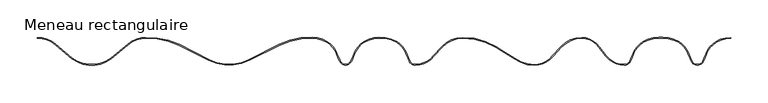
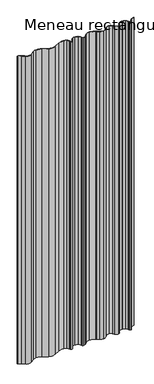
"""IFC4 building model written with IfcOpenShell, lengths in millimetres: member geometry, Meneau rectangulaire : Ritmica 930."""

from ifc_helpers import new_model, si_unit, frame, origin, place, context, project, spatial, polyline, circle_curve, source, transform, mapped, element, save
from ifc_brep_helpers import plane_surface, cylinder_surface, revolved_surface, advanced_brep


def meneau_rectangulaire_eab91256(model_context):
    return source(origin(), model_context, "Body", "AdvancedBrep", [
        advanced_brep(
        [(402.2205359, 30.4385777, 0.0), (421.7589181, 35.9478391, 0.0), (421.7589181, 36.9478391, 0.0), (401.6984475, 31.2914691, 0.0), (388.8453903, 16.0569909, 0.0), (385.9787761, 8.8924216, 0.0), (384.3336727, 5.4571133, 0.0), (370.1555943, 5.4519528, 0.0), (368.5079906, 8.8860626, 0.0), (365.6361617, 16.0485432, 0.0), (352.7665281, 31.277015, 0.0), (331.1566595, 37.2056593, 0.0), (325.8181686, 37.2056593, 0.0), (304.2106964, 31.2585224, 0.0), (291.354122, 16.0229852, 0.0), (288.4869159, 8.8569365, 0.0), (286.8418125, 5.4216282, 0.0), (279.7543979, 0.9556818, 0.0), (255.5611507, 12.6054811, 0.0), (246.0362251, 24.5565471, 0.0), (222.7501335, 36.9429608, 0.0), (194.5527852, 24.6182498, 0.0), (183.4233669, 12.6003168, 0.0), (159.2172985, 0.9038291, 0.0), (133.0380886, 9.1495706, 0.0), (115.6744339, 20.3001087, 0.0), (108.2363693, 24.6976264, 0.0), (63.5265456, 37.0260575, 0.0), (35.3401939, 24.7013521, 0.0), (24.2106858, 12.683322, 0.0), (0.0030296, 0.9869307, 0.0), (-7.0877621, 5.4477166, 0.0), (-8.7353659, 8.8818263, 0.0), (-11.6071948, 16.044307, 0.0), (-24.4768283, 31.2727788, 0.0), (-48.7885595, 37.1140573, 0.0), (-68.816655, 31.4577126, 0.0), (-81.6697123, 16.2232345, 0.0), (-84.5363264, 9.0586651, 0.0), (-86.1814299, 5.6233569, 0.0), (-100.3595082, 5.6181963, 0.0), (-102.007112, 9.0523061, 0.0), (-104.8789409, 16.2147868, 0.0), (-117.7430848, 31.4399044, 0.0), (-137.7899019, 37.0816721, 0.0), (-181.9940118, 27.7973456, 0.0), (-222.5328517, 7.3967696, 0.0), (-275.5383238, 7.3774767, 0.0), (-316.0920037, 27.7485366, 0.0), (-360.3028616, 37.0006818, 0.0), (-384.6892438, 28.1569021, 0.0), (-407.0931164, 9.4780798, 0.0), (-458.7111182, 9.4592919, 0.0), (-481.1285823, 28.1218001, 0.0), (-505.5391627, 36.9478229, 0.0), (-505.5391627, 35.9478228, 0.0), (-481.768388, 27.3532635, 0.0), (-459.3305586, 8.6738011, 0.0), (-406.4731044, 8.6930401, 0.0), (-384.0488787, 27.3888314, 0.0), (-360.2847308, 36.0006925, 0.0), (-316.5331062, 26.8510378, 0.0), (-275.9871976, 6.4838815, 0.0), (-222.0833276, 6.5035014, 0.0), (-181.5522561, 26.9001681, 0.0), (-137.8073037, 36.0816698, 0.0), (-118.2645522, 30.5866331, 0.0), (-105.8071999, 15.8428524, 0.0), (-102.9229956, 8.6495068, 0.0), (-101.26111, 5.1856293, 0.0), (-85.2795134, 5.1914463, 0.0), (-83.6201498, 8.6565327, 0.0), (-80.7411827, 15.8519759, 0.0), (-68.2945667, 30.6048212, 0.0), (-48.7558205, 36.1140827, 0.0), (-24.992806, 30.4161534, 0.0), (-12.5354538, 15.6723726, 0.0), (-9.6512495, 8.4790271, 0.0), (-7.9893639, 5.0151496, 0.0), (5.58e-05, -0.0130699, 0.0), (24.9701296, 12.0316475, 0.0), (36.0739028, 24.0218881, 0.0), (63.5379063, 36.0260631, 0.0), (107.7160778, 23.8435356, 0.0), (115.1496156, 19.4486943, 0.0), (132.4826193, 8.3178394, 0.0), (159.2158569, -0.0961715, 0.0), (184.1827208, 11.9485452, 0.0), (195.286494, 23.9387858, 0.0), (222.7504975, 35.9429609, 0.0), (245.2289804, 23.9649435, 0.0), (254.7791365, 11.9822206, 0.0), (279.7547619, -0.0443181, 0.0), (287.7437289, 4.9897177, 0.0), (289.4030925, 8.4548041, 0.0), (292.2820596, 15.6502473, 0.0), (304.7286757, 30.4030926, 0.0), (325.8181686, 36.2037161, 0.0), (331.1568404, 36.2056593, 0.0), (352.2505504, 30.4203896, 0.0), (364.7079026, 15.6766089, 0.0), (367.5921069, 8.4832633, 0.0), (369.2539925, 5.0193858, 0.0), (385.2355891, 5.0252028, 0.0), (386.8949527, 8.4902892, 0.0), (389.7739198, 15.6857324, 0.0), (402.2205359, 30.4385777, -2588.190451), (389.7739198, 15.6857324, -2588.190451), (386.8949527, 8.4902892, -2588.190451), (385.2355891, 5.0252028, -2588.190451), (369.2539925, 5.0193858, -2588.190451), (367.5921069, 8.4832633, -2588.190451), (364.7079026, 15.6766089, -2588.190451), (352.2505504, 30.4203896, -2588.190451), (331.1568404, 36.2056593, -2588.190451), (325.8181686, 36.2056593, -2588.190451), (304.7286757, 30.4030926, -2588.190451), (292.2820596, 15.6502473, -2588.190451), (289.4030925, 8.4548041, -2588.190451), (287.7437289, 4.9897177, -2588.190451), (279.7547619, -0.0443181, -2588.190451), (254.7791365, 11.9822206, -2588.190451), (245.2289804, 23.9649435, -2588.190451), (222.7504975, 35.9429609, -2588.190451), (195.286494, 23.9387858, -2588.190451), (184.1827208, 11.9485452, -2588.190451), (159.2158569, -0.0961715, -2588.190451), (132.4826193, 8.3178394, -2588.190451), (115.1496156, 19.4486943, -2588.190451), (107.7160778, 23.8435356, -2588.190451), (63.5379063, 36.0260631, -2588.190451), (36.0739028, 24.0218881, -2588.190451), (24.9701296, 12.0316475, -2588.190451), (0.0032656, -0.0130693, -2588.190451), (-7.9893639, 5.0151496, -2588.190451), (-9.6512495, 8.4790271, -2588.190451), (-12.5354538, 15.6723726, -2588.190451), (-24.992806, 30.4161534, -2588.190451), (-48.7558205, 36.1140827, -2588.190451), (-68.2945667, 30.6048212, -2588.190451), (-80.7411827, 15.8519759, -2588.190451), (-83.6201498, 8.6565327, -2588.190451), (-85.2795134, 5.1914463, -2588.190451), (-101.26111, 5.1856293, -2588.190451), (-102.9229956, 8.6495068, -2588.190451), (-105.8071999, 15.8428524, -2588.190451), (-118.2645522, 30.5866331, -2588.190451), (-137.8073037, 36.0816698, -2588.190451), (-181.5522561, 26.9001681, -2588.190451), (-222.0833276, 6.5035014, -2588.190451), (-275.9871976, 6.4838815, -2588.190451), (-316.5331062, 26.8510378, -2588.190451), (-360.2847308, 36.0006925, -2588.190451), (-384.0488787, 27.3888314, -2588.190451), (-406.4731044, 8.6930401, -2588.190451), (-459.3305586, 8.6738011, -2588.190451), (-481.768388, 27.3532635, -2588.190451), (-505.5391627, 35.9478228, -2588.190451), (-505.5391627, 36.9478229, -2588.190451), (-481.1285823, 28.1218001, -2588.190451), (-458.7111182, 9.4592919, -2588.190451), (-407.0931164, 9.4780798, -2588.190451), (-384.6892438, 28.1569021, -2588.190451), (-360.3028616, 37.0006818, -2588.190451), (-316.0920037, 27.7485366, -2588.190451), (-275.5383238, 7.3774767, -2588.190451), (-222.5328517, 7.3967696, -2588.190451), (-181.9940118, 27.7973456, -2588.190451), (-137.7899019, 37.0816721, -2588.190451), (-117.7430848, 31.4399044, -2588.190451), (-104.8789409, 16.2147868, -2588.190451), (-102.007112, 9.0523061, -2588.190451), (-100.3595082, 5.6181963, -2588.190451), (-86.1814299, 5.6233569, -2588.190451), (-84.5363264, 9.0586651, -2588.190451), (-81.6697123, 16.2232345, -2588.190451), (-68.816655, 31.4577126, -2588.190451), (-48.7885595, 37.1140573, -2588.190451), (-24.4768283, 31.2727788, -2588.190451), (-11.6071948, 16.044307, -2588.190451), (-8.7353659, 8.8818263, -2588.190451), (-7.0877621, 5.4477166, -2588.190451), (5.4e-05, 0.9869301, -2588.190451), (24.2106858, 12.683322, -2588.190451), (35.3401939, 24.7013521, -2588.190451), (63.5265456, 37.0260575, -2588.190451), (108.2363693, 24.6976264, -2588.190451), (115.6744339, 20.3001087, -2588.190451), (133.0380886, 9.1495706, -2588.190451), (159.2172985, 0.9038291, -2588.190451), (183.4233669, 12.6003168, -2588.190451), (194.5527852, 24.6182498, -2588.190451), (222.7501335, 36.9429608, -2588.190451), (246.0362251, 24.5565471, -2588.190451), (255.5611507, 12.6054811, -2588.190451), (279.7543979, 0.9556818, -2588.190451), (286.8418125, 5.4216282, -2588.190451), (288.4869159, 8.8569365, -2588.190451), (291.354122, 16.0229852, -2588.190451), (304.2106964, 31.2585224, -2588.190451), (325.8178046, 37.2037161, -2588.190451), (331.1566595, 37.2056593, -2588.190451), (352.7665281, 31.277015, -2588.190451), (365.6361617, 16.0485432, -2588.190451), (368.5079906, 8.8860626, -2588.190451), (370.1555943, 5.4519528, -2588.190451), (384.3336727, 5.4571133, -2588.190451), (385.9787761, 8.8924216, -2588.190451), (388.8453903, 16.0569909, -2588.190451), (401.6984475, 31.2914691, -2588.190451), (421.7589181, 36.9478391, -2588.190451), (421.7589181, 35.9478391, -2588.190451)],
        [
            (0, 1, circle_curve(frame((421.7729132, -1.5024827, 0.0), z_axis=(0.0, 0.0, -1.0), x_axis=(-0.00036397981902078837, 0.9999999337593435, 0.0)), 37.4503244)),
            (1, 2),
            (2, 3, circle_curve(frame((421.7729132, -1.5024827, 0.0), z_axis=(0.0, 0.0, 1.0), x_axis=(-0.00036397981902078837, 0.9999999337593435, 0.0)), 38.4503244)),
            (3, 4, circle_curve(frame((418.2051463, 4.3258754, 0.0), z_axis=(0.0, 0.0, 1.0), x_axis=(-0.522088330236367, 0.8528914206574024, 0.0)), 31.6166783)),
            (4, 5),
            (5, 6),
            (6, 7, circle_curve(frame((377.2433967, 8.8525109, 0.0), z_axis=(0.0, 0.0, -1.0), x_axis=(0.9019164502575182, -0.4319105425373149, 0.0)), 7.8613445)),
            (7, 8),
            (8, 9),
            (9, 10, circle_curve(frame((336.2849532, 4.2960581, 0.0), z_axis=(0.0, 0.0, 1.0), x_axis=(0.928348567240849, 0.3717108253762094, 0.0)), 31.6166783)),
            (10, 11, circle_curve(frame((331.1718702, -5.0871328, 0.0), z_axis=(0.0, 0.0, 1.0), x_axis=(0.5104687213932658, 0.8598963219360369, 0.0)), 42.2927949)),
            (11, 12),
            (12, 13, circle_curve(frame((325.8331983, -5.089076, 0.0), z_axis=(0.0, 0.0, 1.0), x_axis=(-0.0003639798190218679, 0.9999999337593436, 0.0)), 42.2927949)),
            (13, 14, circle_curve(frame((320.9540861, 4.0872333, 0.0), z_axis=(0.0, 0.0, 1.0), x_axis=(-0.5248253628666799, 0.8512099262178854, 0.0)), 31.9158276)),
            (14, 15),
            (15, 16),
            (16, 17, circle_curve(frame((279.7515365, 8.8170258, 0.0), z_axis=(0.0, 0.0, -1.0), x_axis=(0.9019164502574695, -0.4319105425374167, 0.0)), 7.8613445)),
            (17, 18, circle_curve(frame((279.7431426, 31.8783789, 0.0), z_axis=(0.0, 0.0, -1.0), x_axis=(0.00036397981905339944, -0.9999999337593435, 0.0)), 30.9226992)),
            (18, 19),
            (19, 20, circle_curve(frame((222.7603477, 8.8803744, 0.0), z_axis=(0.0, 0.0, 1.0), x_axis=(0.8302470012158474, 0.5573956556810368, 0.0)), 28.0625882)),
            (20, 21, circle_curve(frame((222.7641287, -1.5073611, 0.0), z_axis=(0.0, 0.0, 1.0), x_axis=(-0.0003639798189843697, 0.9999999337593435, 0.0)), 38.4503244)),
            (21, 22),
            (22, 23, circle_curve(frame((159.2042377, 31.8265255, 0.0), z_axis=(0.0, 0.0, -1.0), x_axis=(0.7824677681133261, -0.622691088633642, 0.0)), 30.9226992)),
            (23, 24, circle_curve(frame((159.3694534, 47.0676509, 0.0), z_axis=(0.0, 0.0, -1.0), x_axis=(-0.003256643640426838, -0.9999946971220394, 0.0)), 46.1640725)),
            (24, 25),
            (25, 26),
            (26, 27, circle_curve(frame((65.3150434, -43.7235405, 0.0), z_axis=(0.0, 0.0, 1.0), x_axis=(0.5315450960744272, 0.8470299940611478, 0.0)), 80.769402)),
            (27, 28, circle_curve(frame((63.5515374, -1.4242588, 0.0), z_axis=(0.0, 0.0, 1.0), x_axis=(-0.0003639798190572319, 0.9999999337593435, 0.0)), 38.4503244)),
            (28, 29),
            (29, 30, circle_curve(frame((0.0, 31.8923121, 0.0), z_axis=(0.0, 0.0, -1.0), x_axis=(0.7826306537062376, -0.6224863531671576, 0.0)), 30.9053815)),
            (30, 31, circle_curve(frame((4.03e-05, 8.8482747, 0.0), z_axis=(0.0, 0.0, -1.0), x_axis=(0.0003639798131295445, -0.9999999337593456, 0.0)), 7.8613445)),
            (31, 32),
            (32, 33),
            (33, 34, circle_curve(frame((-40.9584033, 4.2918219, 0.0), z_axis=(0.0, 0.0, 1.0), x_axis=(0.9283485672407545, 0.3717108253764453, 0.0)), 31.6166783)),
            (34, 35, circle_curve(frame((-46.0714863, -5.0913691, 0.0), z_axis=(0.0, 0.0, 1.0), x_axis=(0.5104687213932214, 0.8598963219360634, 0.0)), 42.2927949)),
            (35, 36, circle_curve(frame((-48.7421893, -1.3362392, 0.0), z_axis=(0.0, 0.0, 1.0), x_axis=(-0.000363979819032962, 0.9999999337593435, 0.0)), 38.4503244)),
            (36, 37, circle_curve(frame((-52.3099562, 4.4921189, 0.0), z_axis=(0.0, 0.0, 1.0), x_axis=(-0.522088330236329, 0.8528914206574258, 0.0)), 31.6166783)),
            (37, 38),
            (38, 39),
            (39, 40, circle_curve(frame((-93.2717058, 9.0187544, 0.0), z_axis=(0.0, 0.0, -1.0), x_axis=(0.9019164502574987, -0.43191054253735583, 0.0)), 7.8613445)),
            (40, 41),
            (41, 42),
            (42, 43, circle_curve(frame((-134.2301494, 4.4623016, 0.0), z_axis=(0.0, 0.0, 1.0), x_axis=(0.9283485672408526, 0.3717108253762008, 0.0)), 31.6166783)),
            (43, 44, circle_curve(frame((-137.7936725, -1.3686521, 0.0), z_axis=(0.0, 0.0, 1.0), x_axis=(0.5214673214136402, 0.8532712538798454, 0.0)), 38.4503244)),
            (44, 45, circle_curve(frame((-141.0742515, -57.1544877, 0.0), z_axis=(0.0, 0.0, 1.0), x_axis=(0.035018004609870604, 0.9993866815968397, 0.0)), 94.293376)),
            (45, 46),
            (46, 47, circle_curve(frame((-249.054774, 60.0995934, 0.0), z_axis=(0.0, 0.0, -1.0), x_axis=(0.4495241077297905, -0.8932681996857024, 0.0)), 59.0)),
            (47, 48),
            (48, 49, circle_curve(frame((-356.9499117, -57.2330621, 0.0), z_axis=(0.0, 0.0, 1.0), x_axis=(0.43322266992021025, 0.9012869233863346, 0.0)), 94.293376)),
            (49, 50, circle_curve(frame((-360.2712158, -1.1307254, 0.0), z_axis=(0.0, 0.0, 1.0), x_axis=(-0.00036397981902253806, 0.9999999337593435, 0.0)), 38.1314203)),
            (50, 51),
            (51, 52, circle_curve(frame((-432.9146997, 44.0375933, 0.0), z_axis=(0.0, 0.0, -1.0), x_axis=(0.5990307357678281, -0.800726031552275, 0.0)), 43.1406321)),
            (52, 53),
            (53, 54, circle_curve(frame((-505.5252836, -1.1835949, 0.0), z_axis=(0.0, 0.0, 1.0), x_axis=(0.639805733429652, 0.7685366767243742, 0.0)), 38.1314203)),
            (54, 55),
            (55, 56, circle_curve(frame((-505.5252836, -1.1835949, 0.0), z_axis=(0.0, 0.0, -1.0), x_axis=(0.639805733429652, 0.7685366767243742, 0.0)), 37.1314203)),
            (56, 57),
            (57, 58, circle_curve(frame((-432.9146997, 44.0375933, 0.0), z_axis=(0.0, 0.0, 1.0), x_axis=(0.5990307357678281, -0.800726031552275, 0.0)), 44.1406321)),
            (58, 59),
            (59, 60, circle_curve(frame((-360.2712158, -1.1307254, 0.0), z_axis=(0.0, 0.0, -1.0), x_axis=(-0.00036397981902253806, 0.9999999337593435, 0.0)), 37.1314203)),
            (60, 61, circle_curve(frame((-356.9499117, -57.2330621, 0.0), z_axis=(0.0, 0.0, -1.0), x_axis=(0.43322266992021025, 0.9012869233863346, 0.0)), 93.293376)),
            (61, 62),
            (62, 63, circle_curve(frame((-249.054774, 60.0995934, 0.0), z_axis=(0.0, 0.0, 1.0), x_axis=(0.4495241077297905, -0.8932681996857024, 0.0)), 60.0)),
            (63, 64),
            (64, 65, circle_curve(frame((-141.0742515, -57.1544877, 0.0), z_axis=(0.0, 0.0, -1.0), x_axis=(0.035018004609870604, 0.9993866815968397, 0.0)), 93.293376)),
            (65, 66, circle_curve(frame((-137.7936725, -1.3686521, 0.0), z_axis=(0.0, 0.0, -1.0), x_axis=(0.5214673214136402, 0.8532712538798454, 0.0)), 37.4503244)),
            (66, 67, circle_curve(frame((-134.2301494, 4.4623016, 0.0), z_axis=(0.0, 0.0, -1.0), x_axis=(0.9283485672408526, 0.3717108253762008, 0.0)), 30.6166783)),
            (67, 68),
            (68, 69),
            (69, 70, circle_curve(frame((-93.2717058, 9.0187544, 0.0), z_axis=(0.0, 0.0, 1.0), x_axis=(0.9019164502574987, -0.43191054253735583, 0.0)), 8.8613445)),
            (70, 71),
            (71, 72),
            (72, 73, circle_curve(frame((-52.3099562, 4.4921189, 0.0), z_axis=(0.0, 0.0, -1.0), x_axis=(-0.522088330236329, 0.8528914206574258, 0.0)), 30.6166783)),
            (73, 74, circle_curve(frame((-48.7421893, -1.3362392, 0.0), z_axis=(0.0, 0.0, -1.0), x_axis=(-0.000363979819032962, 0.9999999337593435, 0.0)), 37.4503244)),
            (74, 75, circle_curve(frame((-46.0714863, -5.0913691, 0.0), z_axis=(0.0, 0.0, -1.0), x_axis=(0.5104687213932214, 0.8598963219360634, 0.0)), 41.2927949)),
            (75, 76, circle_curve(frame((-40.9584033, 4.2918219, 0.0), z_axis=(0.0, 0.0, -1.0), x_axis=(0.9283485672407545, 0.3717108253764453, 0.0)), 30.6166783)),
            (76, 77),
            (77, 78),
            (78, 79, circle_curve(frame((4.03e-05, 8.8482747, 0.0), z_axis=(0.0, 0.0, 1.0), x_axis=(0.0003639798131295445, -0.9999999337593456, 0.0)), 8.8613445)),
            (79, 80, circle_curve(frame((0.0, 31.8923121, 0.0), z_axis=(0.0, 0.0, 1.0), x_axis=(0.7826306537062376, -0.6224863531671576, 0.0)), 31.9053815)),
            (80, 81),
            (81, 82, circle_curve(frame((63.5515374, -1.4242588, 0.0), z_axis=(0.0, 0.0, -1.0), x_axis=(-0.0003639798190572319, 0.9999999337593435, 0.0)), 37.4503244)),
            (82, 83, circle_curve(frame((65.3150434, -43.7235405, 0.0), z_axis=(0.0, 0.0, -1.0), x_axis=(0.5315450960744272, 0.8470299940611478, 0.0)), 79.769402)),
            (83, 84),
            (84, 85),
            (85, 86, circle_curve(frame((159.3694534, 47.0676509, 0.0), z_axis=(0.0, 0.0, 1.0), x_axis=(-0.003256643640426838, -0.9999946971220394, 0.0)), 47.1640725)),
            (86, 87, circle_curve(frame((159.2042377, 31.8265255, 0.0), z_axis=(0.0, 0.0, 1.0), x_axis=(0.7824677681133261, -0.622691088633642, 0.0)), 31.9226992)),
            (87, 88),
            (88, 89, circle_curve(frame((222.7641287, -1.5073611, 0.0), z_axis=(0.0, 0.0, -1.0), x_axis=(-0.0003639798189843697, 0.9999999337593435, 0.0)), 37.4503244)),
            (89, 90, circle_curve(frame((222.7603477, 8.8803744, 0.0), z_axis=(0.0, 0.0, -1.0), x_axis=(0.8302470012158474, 0.5573956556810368, 0.0)), 27.0625882)),
            (90, 91),
            (91, 92, circle_curve(frame((279.7431426, 31.8783789, 0.0), z_axis=(0.0, 0.0, 1.0), x_axis=(0.00036397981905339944, -0.9999999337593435, 0.0)), 31.9226992)),
            (92, 93, circle_curve(frame((279.7515365, 8.8170258, 0.0), z_axis=(0.0, 0.0, 1.0), x_axis=(0.9019164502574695, -0.4319105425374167, 0.0)), 8.8613445)),
            (93, 94),
            (94, 95),
            (95, 96, circle_curve(frame((320.9540861, 4.0872333, 0.0), z_axis=(0.0, 0.0, -1.0), x_axis=(-0.5248253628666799, 0.8512099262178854, 0.0)), 30.9158276)),
            (96, 97, circle_curve(frame((325.8331983, -5.089076, 0.0), z_axis=(0.0, 0.0, -1.0), x_axis=(-0.0003639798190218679, 0.9999999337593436, 0.0)), 41.2927949)),
            (97, 98),
            (98, 99, circle_curve(frame((331.1718702, -5.0871328, 0.0), z_axis=(0.0, 0.0, -1.0), x_axis=(0.5104687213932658, 0.8598963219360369, 0.0)), 41.2927949)),
            (99, 100, circle_curve(frame((336.2849532, 4.2960581, 0.0), z_axis=(0.0, 0.0, -1.0), x_axis=(0.928348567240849, 0.3717108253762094, 0.0)), 30.6166783)),
            (100, 101),
            (101, 102),
            (102, 103, circle_curve(frame((377.2433967, 8.8525109, 0.0), z_axis=(0.0, 0.0, 1.0), x_axis=(0.9019164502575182, -0.4319105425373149, 0.0)), 8.8613445)),
            (103, 104),
            (104, 105),
            (105, 0, circle_curve(frame((418.2051463, 4.3258754, 0.0), z_axis=(0.0, 0.0, -1.0), x_axis=(-0.522088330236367, 0.8528914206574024, 0.0)), 30.6166783)),
            (106, 107, circle_curve(frame((418.2051463, 4.3258754, -2588.190451), z_axis=(0.0, 0.0, 1.0), x_axis=(-0.522088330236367, 0.8528914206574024, 0.0)), 30.6166783)),
            (107, 108),
            (108, 109),
            (109, 110, circle_curve(frame((377.2433967, 8.8525109, -2588.190451), z_axis=(0.0, 0.0, -1.0), x_axis=(0.9019164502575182, -0.4319105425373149, 0.0)), 8.8613445)),
            (110, 111),
            (111, 112),
            (112, 113, circle_curve(frame((336.2849532, 4.2960581, -2588.190451), z_axis=(0.0, 0.0, 1.0), x_axis=(0.928348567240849, 0.3717108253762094, 0.0)), 30.6166783)),
            (113, 114, circle_curve(frame((331.1718702, -5.0871328, -2588.190451), z_axis=(0.0, 0.0, 1.0), x_axis=(0.5104687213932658, 0.8598963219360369, 0.0)), 41.2927949)),
            (114, 115),
            (115, 116, circle_curve(frame((325.8331983, -5.089076, -2588.190451), z_axis=(0.0, 0.0, 1.0), x_axis=(-0.0003639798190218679, 0.9999999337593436, 0.0)), 41.2927949)),
            (116, 117, circle_curve(frame((320.9540861, 4.0872333, -2588.190451), z_axis=(0.0, 0.0, 1.0), x_axis=(-0.5248253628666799, 0.8512099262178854, 0.0)), 30.9158276)),
            (117, 118),
            (118, 119),
            (119, 120, circle_curve(frame((279.7515365, 8.8170258, -2588.190451), z_axis=(0.0, 0.0, -1.0), x_axis=(0.9019164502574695, -0.4319105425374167, 0.0)), 8.8613445)),
            (120, 121, circle_curve(frame((279.7431426, 31.8783789, -2588.190451), z_axis=(0.0, 0.0, -1.0), x_axis=(0.00036397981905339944, -0.9999999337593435, 0.0)), 31.9226992)),
            (121, 122),
            (122, 123, circle_curve(frame((222.7603477, 8.8803744, -2588.190451), z_axis=(0.0, 0.0, 1.0), x_axis=(0.8302470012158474, 0.5573956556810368, 0.0)), 27.0625882)),
            (123, 124, circle_curve(frame((222.7641287, -1.5073611, -2588.190451), z_axis=(0.0, 0.0, 1.0), x_axis=(-0.0003639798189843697, 0.9999999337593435, 0.0)), 37.4503244)),
            (124, 125),
            (125, 126, circle_curve(frame((159.2042377, 31.8265255, -2588.190451), z_axis=(0.0, 0.0, -1.0), x_axis=(0.7824677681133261, -0.622691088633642, 0.0)), 31.9226992)),
            (126, 127, circle_curve(frame((159.3694534, 47.0676509, -2588.190451), z_axis=(0.0, 0.0, -1.0), x_axis=(-0.003256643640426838, -0.9999946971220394, 0.0)), 47.1640725)),
            (127, 128),
            (128, 129),
            (129, 130, circle_curve(frame((65.3150434, -43.7235405, -2588.190451), z_axis=(0.0, 0.0, 1.0), x_axis=(0.5315450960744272, 0.8470299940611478, 0.0)), 79.769402)),
            (130, 131, circle_curve(frame((63.5515374, -1.4242588, -2588.190451), z_axis=(0.0, 0.0, 1.0), x_axis=(-0.0003639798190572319, 0.9999999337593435, 0.0)), 37.4503244)),
            (131, 132),
            (132, 133, circle_curve(frame((0.0, 31.8923121, -2588.190451), z_axis=(0.0, 0.0, -1.0), x_axis=(0.7826306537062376, -0.6224863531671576, 0.0)), 31.9053815)),
            (133, 134, circle_curve(frame((4.03e-05, 8.8482747, -2588.190451), z_axis=(0.0, 0.0, -1.0), x_axis=(0.0003639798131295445, -0.9999999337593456, 0.0)), 8.8613445)),
            (134, 135),
            (135, 136),
            (136, 137, circle_curve(frame((-40.9584033, 4.2918219, -2588.190451), z_axis=(0.0, 0.0, 1.0), x_axis=(0.9283485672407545, 0.3717108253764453, 0.0)), 30.6166783)),
            (137, 138, circle_curve(frame((-46.0714863, -5.0913691, -2588.190451), z_axis=(0.0, 0.0, 1.0), x_axis=(0.5104687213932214, 0.8598963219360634, 0.0)), 41.2927949)),
            (138, 139, circle_curve(frame((-48.7421893, -1.3362392, -2588.190451), z_axis=(0.0, 0.0, 1.0), x_axis=(-0.000363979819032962, 0.9999999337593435, 0.0)), 37.4503244)),
            (139, 140, circle_curve(frame((-52.3099562, 4.4921189, -2588.190451), z_axis=(0.0, 0.0, 1.0), x_axis=(-0.522088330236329, 0.8528914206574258, 0.0)), 30.6166783)),
            (140, 141),
            (141, 142),
            (142, 143, circle_curve(frame((-93.2717058, 9.0187544, -2588.190451), z_axis=(0.0, 0.0, -1.0), x_axis=(0.9019164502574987, -0.43191054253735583, 0.0)), 8.8613445)),
            (143, 144),
            (144, 145),
            (145, 146, circle_curve(frame((-134.2301494, 4.4623016, -2588.190451), z_axis=(0.0, 0.0, 1.0), x_axis=(0.9283485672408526, 0.3717108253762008, 0.0)), 30.6166783)),
            (146, 147, circle_curve(frame((-137.7936725, -1.3686521, -2588.190451), z_axis=(0.0, 0.0, 1.0), x_axis=(0.5214673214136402, 0.8532712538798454, 0.0)), 37.4503244)),
            (147, 148, circle_curve(frame((-141.0742515, -57.1544877, -2588.190451), z_axis=(0.0, 0.0, 1.0), x_axis=(0.035018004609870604, 0.9993866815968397, 0.0)), 93.293376)),
            (148, 149),
            (149, 150, circle_curve(frame((-249.054774, 60.0995934, -2588.190451), z_axis=(0.0, 0.0, -1.0), x_axis=(0.4495241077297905, -0.8932681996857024, 0.0)), 60.0)),
            (150, 151),
            (151, 152, circle_curve(frame((-356.9499117, -57.2330621, -2588.190451), z_axis=(0.0, 0.0, 1.0), x_axis=(0.43322266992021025, 0.9012869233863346, 0.0)), 93.293376)),
            (152, 153, circle_curve(frame((-360.2712158, -1.1307254, -2588.190451), z_axis=(0.0, 0.0, 1.0), x_axis=(-0.00036397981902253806, 0.9999999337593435, 0.0)), 37.1314203)),
            (153, 154),
            (154, 155, circle_curve(frame((-432.9146997, 44.0375933, -2588.190451), z_axis=(0.0, 0.0, -1.0), x_axis=(0.5990307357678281, -0.800726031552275, 0.0)), 44.1406321)),
            (155, 156),
            (156, 157, circle_curve(frame((-505.5252836, -1.1835949, -2588.190451), z_axis=(0.0, 0.0, 1.0), x_axis=(0.639805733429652, 0.7685366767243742, 0.0)), 37.1314203)),
            (157, 158),
            (158, 159, circle_curve(frame((-505.5252836, -1.1835949, -2588.190451), z_axis=(0.0, 0.0, -1.0), x_axis=(0.639805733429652, 0.7685366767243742, 0.0)), 38.1314203)),
            (159, 160),
            (160, 161, circle_curve(frame((-432.9146997, 44.0375933, -2588.190451), z_axis=(0.0, 0.0, 1.0), x_axis=(0.5990307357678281, -0.800726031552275, 0.0)), 43.1406321)),
            (161, 162),
            (162, 163, circle_curve(frame((-360.2712158, -1.1307254, -2588.190451), z_axis=(0.0, 0.0, -1.0), x_axis=(-0.00036397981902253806, 0.9999999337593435, 0.0)), 38.1314203)),
            (163, 164, circle_curve(frame((-356.9499117, -57.2330621, -2588.190451), z_axis=(0.0, 0.0, -1.0), x_axis=(0.43322266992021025, 0.9012869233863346, 0.0)), 94.293376)),
            (164, 165),
            (165, 166, circle_curve(frame((-249.054774, 60.0995934, -2588.190451), z_axis=(0.0, 0.0, 1.0), x_axis=(0.4495241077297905, -0.8932681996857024, 0.0)), 59.0)),
            (166, 167),
            (167, 168, circle_curve(frame((-141.0742515, -57.1544877, -2588.190451), z_axis=(0.0, 0.0, -1.0), x_axis=(0.035018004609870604, 0.9993866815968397, 0.0)), 94.293376)),
            (168, 169, circle_curve(frame((-137.7936725, -1.3686521, -2588.190451), z_axis=(0.0, 0.0, -1.0), x_axis=(0.5214673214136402, 0.8532712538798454, 0.0)), 38.4503244)),
            (169, 170, circle_curve(frame((-134.2301494, 4.4623016, -2588.190451), z_axis=(0.0, 0.0, -1.0), x_axis=(0.9283485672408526, 0.3717108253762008, 0.0)), 31.6166783)),
            (170, 171),
            (171, 172),
            (172, 173, circle_curve(frame((-93.2717058, 9.0187544, -2588.190451), z_axis=(0.0, 0.0, 1.0), x_axis=(0.9019164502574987, -0.43191054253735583, 0.0)), 7.8613445)),
            (173, 174),
            (174, 175),
            (175, 176, circle_curve(frame((-52.3099562, 4.4921189, -2588.190451), z_axis=(0.0, 0.0, -1.0), x_axis=(-0.522088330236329, 0.8528914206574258, 0.0)), 31.6166783)),
            (176, 177, circle_curve(frame((-48.7421893, -1.3362392, -2588.190451), z_axis=(0.0, 0.0, -1.0), x_axis=(-0.000363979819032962, 0.9999999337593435, 0.0)), 38.4503244)),
            (177, 178, circle_curve(frame((-46.0714863, -5.0913691, -2588.190451), z_axis=(0.0, 0.0, -1.0), x_axis=(0.5104687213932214, 0.8598963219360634, 0.0)), 42.2927949)),
            (178, 179, circle_curve(frame((-40.9584033, 4.2918219, -2588.190451), z_axis=(0.0, 0.0, -1.0), x_axis=(0.9283485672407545, 0.3717108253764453, 0.0)), 31.6166783)),
            (179, 180),
            (180, 181),
            (181, 182, circle_curve(frame((4.03e-05, 8.8482747, -2588.190451), z_axis=(0.0, 0.0, 1.0), x_axis=(0.0003639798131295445, -0.9999999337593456, 0.0)), 7.8613445)),
            (182, 183, circle_curve(frame((0.0, 31.8923121, -2588.190451), z_axis=(0.0, 0.0, 1.0), x_axis=(0.7826306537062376, -0.6224863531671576, 0.0)), 30.9053815)),
            (183, 184),
            (184, 185, circle_curve(frame((63.5515374, -1.4242588, -2588.190451), z_axis=(0.0, 0.0, -1.0), x_axis=(-0.0003639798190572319, 0.9999999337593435, 0.0)), 38.4503244)),
            (185, 186, circle_curve(frame((65.3150434, -43.7235405, -2588.190451), z_axis=(0.0, 0.0, -1.0), x_axis=(0.5315450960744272, 0.8470299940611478, 0.0)), 80.769402)),
            (186, 187),
            (187, 188),
            (188, 189, circle_curve(frame((159.3694534, 47.0676509, -2588.190451), z_axis=(0.0, 0.0, 1.0), x_axis=(-0.003256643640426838, -0.9999946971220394, 0.0)), 46.1640725)),
            (189, 190, circle_curve(frame((159.2042377, 31.8265255, -2588.190451), z_axis=(0.0, 0.0, 1.0), x_axis=(0.7824677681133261, -0.622691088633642, 0.0)), 30.9226992)),
            (190, 191),
            (191, 192, circle_curve(frame((222.7641287, -1.5073611, -2588.190451), z_axis=(0.0, 0.0, -1.0), x_axis=(-0.0003639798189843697, 0.9999999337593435, 0.0)), 38.4503244)),
            (192, 193, circle_curve(frame((222.7603477, 8.8803744, -2588.190451), z_axis=(0.0, 0.0, -1.0), x_axis=(0.8302470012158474, 0.5573956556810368, 0.0)), 28.0625882)),
            (193, 194),
            (194, 195, circle_curve(frame((279.7431426, 31.8783789, -2588.190451), z_axis=(0.0, 0.0, 1.0), x_axis=(0.00036397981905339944, -0.9999999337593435, 0.0)), 30.9226992)),
            (195, 196, circle_curve(frame((279.7515365, 8.8170258, -2588.190451), z_axis=(0.0, 0.0, 1.0), x_axis=(0.9019164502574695, -0.4319105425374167, 0.0)), 7.8613445)),
            (196, 197),
            (197, 198),
            (198, 199, circle_curve(frame((320.9540861, 4.0872333, -2588.190451), z_axis=(0.0, 0.0, -1.0), x_axis=(-0.5248253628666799, 0.8512099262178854, 0.0)), 31.9158276)),
            (199, 200, circle_curve(frame((325.8331983, -5.089076, -2588.190451), z_axis=(0.0, 0.0, -1.0), x_axis=(-0.0003639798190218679, 0.9999999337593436, 0.0)), 42.2927949)),
            (200, 201),
            (201, 202, circle_curve(frame((331.1718702, -5.0871328, -2588.190451), z_axis=(0.0, 0.0, -1.0), x_axis=(0.5104687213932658, 0.8598963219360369, 0.0)), 42.2927949)),
            (202, 203, circle_curve(frame((336.2849532, 4.2960581, -2588.190451), z_axis=(0.0, 0.0, -1.0), x_axis=(0.928348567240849, 0.3717108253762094, 0.0)), 31.6166783)),
            (203, 204),
            (204, 205),
            (205, 206, circle_curve(frame((377.2433967, 8.8525109, -2588.190451), z_axis=(0.0, 0.0, 1.0), x_axis=(0.9019164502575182, -0.4319105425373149, 0.0)), 7.8613445)),
            (206, 207),
            (207, 208),
            (208, 209, circle_curve(frame((418.2051463, 4.3258754, -2588.190451), z_axis=(0.0, 0.0, -1.0), x_axis=(-0.522088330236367, 0.8528914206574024, 0.0)), 31.6166783)),
            (209, 210, circle_curve(frame((421.7729132, -1.5024827, -2588.190451), z_axis=(0.0, 0.0, -1.0), x_axis=(-0.00036397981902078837, 0.9999999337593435, 0.0)), 38.4503244)),
            (210, 211),
            (211, 106, circle_curve(frame((421.7729132, -1.5024827, -2588.190451), z_axis=(0.0, 0.0, 1.0), x_axis=(-0.00036397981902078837, 0.9999999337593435, 0.0)), 37.4503244)),
            (0, 106),
            (211, 1),
            (210, 2),
            (209, 3),
            (208, 4),
            (207, 5),
            (206, 6),
            (205, 7),
            (204, 8),
            (203, 9),
            (202, 10),
            (201, 11),
            (200, 12),
            (199, 13),
            (198, 14),
            (197, 15),
            (196, 16),
            (195, 17),
            (194, 18),
            (193, 19),
            (192, 20),
            (191, 21),
            (190, 22),
            (189, 23),
            (188, 24),
            (187, 25),
            (186, 26),
            (185, 27),
            (184, 28),
            (183, 29),
            (182, 30),
            (181, 31),
            (180, 32),
            (179, 33),
            (178, 34),
            (177, 35),
            (176, 36),
            (175, 37),
            (174, 38),
            (173, 39),
            (172, 40),
            (171, 41),
            (170, 42),
            (169, 43),
            (168, 44),
            (167, 45),
            (166, 46),
            (165, 47),
            (164, 48),
            (163, 49),
            (162, 50),
            (161, 51),
            (160, 52),
            (159, 53),
            (158, 54),
            (157, 55),
            (156, 56),
            (155, 57),
            (154, 58),
            (153, 59),
            (152, 60),
            (151, 61),
            (150, 62),
            (149, 63),
            (148, 64),
            (147, 65),
            (146, 66),
            (145, 67),
            (144, 68),
            (143, 69),
            (142, 70),
            (141, 71),
            (140, 72),
            (139, 73),
            (138, 74),
            (137, 75),
            (136, 76),
            (135, 77),
            (134, 78),
            (133, 79),
            (132, 80),
            (131, 81),
            (130, 82),
            (129, 83),
            (128, 84),
            (127, 85),
            (126, 86),
            (125, 87),
            (124, 88),
            (123, 89),
            (122, 90),
            (121, 91),
            (120, 92),
            (119, 93),
            (118, 94),
            (117, 95),
            (116, 96),
            (115, 97),
            (114, 98),
            (113, 99),
            (112, 100),
            (111, 101),
            (110, 102),
            (109, 103),
            (108, 104),
            (107, 105),
        ],
        [
            plane_surface(frame((0.0, -506.8875483, 0.0), z_axis=(0.0, 0.0, 1.0), x_axis=(-1.0, 0.0, 0.0))),
            plane_surface(frame((0.0, -506.8875483, -2588.190451), z_axis=(0.0, 0.0, -1.0), x_axis=(-1.0, 0.0, 0.0))),
            revolved_surface(polyline([(421.75928203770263, 35.94783921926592, -2588.190451), (421.75928203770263, 35.94783921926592, 0.0)]), (421.7729132, -1.5024827, 0.0), (0.0, 0.0, -1.0)),
            plane_surface(frame((421.7589181, 35.9478391, 0.0), z_axis=(1.0, 0.0, 0.0), x_axis=(0.0, 0.0, -1.0))),
            cylinder_surface(frame((421.7729132, -1.5024827, 0.0), z_axis=(0.0, 0.0, 1.0), x_axis=(-0.00036397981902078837, 0.9999999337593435, 0.0)), 38.4503244),
            cylinder_surface(frame((418.2051463, 4.3258754, 0.0), z_axis=(0.0, 0.0, 1.0), x_axis=(-0.522088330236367, 0.8528914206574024, 0.0)), 31.6166783),
            plane_surface(frame((388.8453903, 16.0569909, 0.0), z_axis=(-0.9284415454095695, 0.37147852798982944, 0.0), x_axis=(0.0, 0.0, -1.0))),
            plane_surface(frame((385.9787761, 8.8924216, 0.0), z_axis=(-0.9019164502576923, 0.43191054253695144, 0.0), x_axis=(0.0, 0.0, -1.0))),
            revolved_surface(polyline([(384.33367262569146, 5.4571133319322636, -2588.190451), (384.33367262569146, 5.4571133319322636, 0.0)]), (377.2433967, 8.8525109, 0.0), (0.0, 0.0, -1.0)),
            plane_surface(frame((370.1555943, 5.4519528, 0.0), z_axis=(0.9016017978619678, 0.4325669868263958, 0.0), x_axis=(0.0, 0.0, -1.0))),
            plane_surface(frame((368.5079906, 8.8860626, 0.0), z_axis=(0.9281708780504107, 0.37215429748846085, 0.0), x_axis=(0.0, 0.0, -1.0))),
            cylinder_surface(frame((336.2849532, 4.2960581, 0.0), z_axis=(0.0, 0.0, 1.0), x_axis=(0.928348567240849, 0.3717108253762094, 0.0)), 31.6166783),
            cylinder_surface(frame((331.1718702, -5.0871328, 0.0), z_axis=(0.0, 0.0, 1.0), x_axis=(0.5104687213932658, 0.8598963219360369, 0.0)), 42.2927949),
            plane_surface(frame((331.1566595, 37.2056593, 0.0), z_axis=(0.0, 1.0, 0.0), x_axis=(0.0, 0.0, -1.0))),
            cylinder_surface(frame((325.8331983, -5.089076, 0.0), z_axis=(0.0, 0.0, 1.0000000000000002), x_axis=(-0.0003639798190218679, 0.9999999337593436, 0.0)), 42.2927949),
            cylinder_surface(frame((320.9540861, 4.0872333, 0.0), z_axis=(0.0, 0.0, 1.0000000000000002), x_axis=(-0.5248253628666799, 0.8512099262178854, 0.0)), 31.9158276),
            plane_surface(frame((291.354122, 16.0229852, 0.0), z_axis=(-0.9284415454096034, 0.3714785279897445, 0.0), x_axis=(0.0, 0.0, -1.0))),
            plane_surface(frame((288.4869159, 8.8569365, 0.0), z_axis=(-0.9019164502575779, 0.43191054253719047, 0.0), x_axis=(0.0, 0.0, -1.0))),
            revolved_surface(polyline([(286.84181242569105, 5.421628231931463, -2588.190451), (286.84181242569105, 5.421628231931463, 0.0)]), (279.7515365, 8.8170258, 0.0), (0.0, 0.0, -1.0)),
            revolved_surface(polyline([(279.75439783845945, 0.9556817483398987, -2588.190451), (279.75439783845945, 0.9556817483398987, 0.0)]), (279.7431426, 31.8783789, 0.0), (0.0, 0.0, -1.0)),
            plane_surface(frame((255.5611507, 12.6054811, 0.0), z_axis=(0.7820142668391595, 0.6232605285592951, 0.0), x_axis=(0.0, 0.0, -1.0))),
            cylinder_surface(frame((222.7603477, 8.8803744, 0.0), z_axis=(0.0, 0.0, 1.0000000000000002), x_axis=(0.8302470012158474, 0.5573956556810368, 0.0)), 28.0625882),
            cylinder_surface(frame((222.7641287, -1.5073611, 0.0), z_axis=(0.0, 0.0, 1.0), x_axis=(-0.0003639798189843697, 0.9999999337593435, 0.0)), 38.4503244),
            plane_surface(frame((194.5527852, 24.6182498, 0.0), z_axis=(-0.7337088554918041, 0.6794639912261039, 0.0), x_axis=(0.0, 0.0, -1.0))),
            revolved_surface(polyline([(183.40025312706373, 12.571236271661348, -2588.190451), (183.40025312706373, 12.571236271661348, 0.0)]), (159.2042377, 31.8265255, 0.0), (0.0, 0.0, -1.0)),
            revolved_surface(polyline([(159.21911346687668, 0.9038232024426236, -2588.190451), (159.21911346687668, 0.9038232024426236, 0.0)]), (159.3694534, 47.0676509, 0.0), (0.0, 0.0, -1.0)),
            plane_surface(frame((133.0380886, 9.1495706, 0.0), z_axis=(0.540352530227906, 0.8414387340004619, 0.0), x_axis=(0.0, 0.0, -1.0))),
            plane_surface(frame((115.6744339, 20.3001087, 0.0), z_axis=(0.508926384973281, 0.8608100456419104, 0.0), x_axis=(0.0, 0.0, -1.0))),
            cylinder_surface(frame((65.3150434, -43.7235405, 0.0), z_axis=(0.0, 0.0, 1.0), x_axis=(0.5315450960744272, 0.8470299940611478, 0.0)), 80.769402),
            cylinder_surface(frame((63.5515374, -1.4242588, 0.0), z_axis=(0.0, 0.0, 1.0), x_axis=(-0.0003639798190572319, 0.9999999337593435, 0.0)), 38.4503244),
            plane_surface(frame((35.3401939, 24.7013521, 0.0), z_axis=(-0.7337088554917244, 0.67946399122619, 0.0), x_axis=(0.0, 0.0, -1.0))),
            revolved_surface(polyline([(24.187498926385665, 12.654133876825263, -2588.190451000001), (24.187498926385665, 12.654133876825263, 0.0)]), (0.0, 31.8923121, 0.0), (0.0, 0.0, -1.0000000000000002)),
            revolved_surface(polyline([(0.0029016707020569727, 0.9869307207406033, -2588.190451), (0.0029016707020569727, 0.9869307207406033, 0.0)]), (4.03e-05, 8.8482747, 0.0), (0.0, 0.0, -1.0)),
            plane_surface(frame((-7.0877621, 5.4477166, 0.0), z_axis=(0.9016017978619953, 0.4325669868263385, 0.0), x_axis=(0.0, 0.0, -1.0))),
            plane_surface(frame((-8.7353659, 8.8818263, 0.0), z_axis=(0.9281708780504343, 0.372154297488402, 0.0), x_axis=(0.0, 0.0, -1.0))),
            cylinder_surface(frame((-40.9584033, 4.2918219, 0.0), z_axis=(0.0, 0.0, 1.0), x_axis=(0.9283485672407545, 0.3717108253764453, 0.0)), 31.6166783),
            cylinder_surface(frame((-46.0714863, -5.0913691, 0.0), z_axis=(0.0, 0.0, 1.0000000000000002), x_axis=(0.5104687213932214, 0.8598963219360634, 0.0)), 42.2927949),
            cylinder_surface(frame((-48.7421893, -1.3362392, 0.0), z_axis=(0.0, 0.0, 1.0), x_axis=(-0.000363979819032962, 0.9999999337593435, 0.0)), 38.4503244),
            cylinder_surface(frame((-52.3099562, 4.4921189, 0.0), z_axis=(0.0, 0.0, 1.0000000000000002), x_axis=(-0.522088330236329, 0.8528914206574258, 0.0)), 31.6166783),
            plane_surface(frame((-81.6697123, 16.2232345, 0.0), z_axis=(-0.9284415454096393, 0.37147852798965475, 0.0), x_axis=(0.0, 0.0, -1.0))),
            plane_surface(frame((-84.5363264, 9.0586651, 0.0), z_axis=(-0.9019164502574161, 0.4319105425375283, 0.0), x_axis=(0.0, 0.0, -1.0))),
            revolved_surface(polyline([(-86.18142987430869, 5.623356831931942, -2588.190451), (-86.18142987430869, 5.623356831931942, 0.0)]), (-93.2717058, 9.0187544, 0.0), (0.0, 0.0, -1.0)),
            plane_surface(frame((-100.3595082, 5.6181963, 0.0), z_axis=(0.9016017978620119, 0.4325669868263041, 0.0), x_axis=(0.0, 0.0, -1.0))),
            plane_surface(frame((-102.007112, 9.0523061, 0.0), z_axis=(0.9281708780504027, 0.372154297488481, 0.0), x_axis=(0.0, 0.0, -1.0))),
            cylinder_surface(frame((-134.2301494, 4.4623016, 0.0), z_axis=(0.0, 0.0, 1.0000000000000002), x_axis=(0.9283485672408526, 0.3717108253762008, 0.0)), 31.6166783),
            cylinder_surface(frame((-137.7936725, -1.3686521, 0.0), z_axis=(0.0, 0.0, 1.0000000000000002), x_axis=(0.5214673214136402, 0.8532712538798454, 0.0)), 38.4503244),
            cylinder_surface(frame((-141.0742515, -57.1544877, 0.0), z_axis=(0.0, 0.0, 1.0), x_axis=(0.035018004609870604, 0.9993866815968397, 0.0)), 94.293376),
            plane_surface(frame((-181.9940118, 27.7973456, 0.0), z_axis=(-0.449524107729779, 0.893268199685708, 0.0), x_axis=(0.0, 0.0, -1.0))),
            revolved_surface(polyline([(-222.53285164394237, 7.396769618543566, -2588.190451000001), (-222.53285164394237, 7.396769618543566, 0.0)]), (-249.054774, 60.0995934, 0.0), (0.0, 0.0, -1.0000000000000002)),
            plane_surface(frame((-275.5383238, 7.3774767, 0.0), z_axis=(0.44887372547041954, 0.8935951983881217, 0.0), x_axis=(0.0, 0.0, -1.0))),
            cylinder_surface(frame((-356.9499117, -57.2330621, 0.0), z_axis=(0.0, 0.0, 1.0), x_axis=(0.43322266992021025, 0.9012869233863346, 0.0)), 94.293376),
            cylinder_surface(frame((-360.2712158, -1.1307254, 0.0), z_axis=(0.0, 0.0, 1.0), x_axis=(-0.00036397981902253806, 0.9999999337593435, 0.0)), 38.1314203),
            plane_surface(frame((-384.6892438, 28.1569021, 0.0), z_axis=(-0.6403650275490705, 0.7680707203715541, 0.0), x_axis=(0.0, 0.0, -1.0))),
            revolved_surface(polyline([(-407.07213511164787, 9.493766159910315, -2588.190451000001), (-407.07213511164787, 9.493766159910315, 0.0)]), (-432.9146997, 44.0375933, 0.0), (0.0, 0.0, -1.0000000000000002)),
            plane_surface(frame((-458.7111182, 9.4592919, 0.0), z_axis=(0.6398057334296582, 0.7685366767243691, 0.0), x_axis=(0.0, 0.0, -1.0))),
            cylinder_surface(frame((-505.5252836, -1.1835949, 0.0), z_axis=(0.0, 0.0, 1.0), x_axis=(0.639805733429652, 0.7685366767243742, 0.0)), 38.1314203),
            plane_surface(frame((-505.5391627, 36.9478229, 0.0), z_axis=(-1.0, 0.0, 0.0), x_axis=(0.0, 0.0, -1.0))),
            revolved_surface(polyline([(-481.7683880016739, 27.353263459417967, -2588.190451), (-481.7683880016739, 27.353263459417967, 0.0)]), (-505.5252836, -1.1835949, 0.0), (0.0, 0.0, -1.0)),
            plane_surface(frame((-481.768388, 27.3532635, 0.0), z_axis=(-0.6398057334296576, -0.7685366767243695, 0.0), x_axis=(0.0, 0.0, -1.0))),
            cylinder_surface(frame((-432.9146997, 44.0375933, 0.0), z_axis=(0.0, 0.0, 1.0000000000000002), x_axis=(0.5990307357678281, -0.800726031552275, 0.0)), 44.1406321),
            plane_surface(frame((-406.4731044, 8.6930401, 0.0), z_axis=(0.6403650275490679, -0.7680707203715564, 0.0), x_axis=(0.0, 0.0, -1.0))),
            revolved_surface(polyline([(-360.2847308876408, 36.00069244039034, -2588.190451), (-360.2847308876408, 36.00069244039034, 0.0)]), (-360.2712158, -1.1307254, 0.0), (0.0, 0.0, -1.0)),
            revolved_surface(polyline([(-316.53310626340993, 26.851037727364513, -2588.190451), (-316.53310626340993, 26.851037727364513, 0.0)]), (-356.9499117, -57.2330621, 0.0), (0.0, 0.0, -1.0)),
            plane_surface(frame((-316.5331062, 26.8510378, 0.0), z_axis=(-0.44887372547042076, -0.8935951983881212, 0.0), x_axis=(0.0, 0.0, -1.0))),
            cylinder_surface(frame((-249.054774, 60.0995934, 0.0), z_axis=(0.0, 0.0, 1.0000000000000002), x_axis=(0.4495241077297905, -0.8932681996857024, 0.0)), 60.0),
            plane_surface(frame((-222.0833276, 6.5035014, 0.0), z_axis=(0.449524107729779, -0.8932681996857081, 0.0), x_axis=(0.0, 0.0, -1.0))),
            revolved_surface(polyline([(-137.80730362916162, 36.08166975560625, -2588.190451), (-137.80730362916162, 36.08166975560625, 0.0)]), (-141.0742515, -57.1544877, 0.0), (0.0, 0.0, -1.0)),
            revolved_surface(polyline([(-118.26455214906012, 30.586633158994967, -2588.190451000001), (-118.26455214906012, 30.586633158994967, 0.0)]), (-137.7936725, -1.3686521, 0.0), (0.0, 0.0, -1.0000000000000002)),
            revolved_surface(polyline([(-105.80719996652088, 15.842852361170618, -2588.190451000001), (-105.80719996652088, 15.842852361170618, 0.0)]), (-134.2301494, 4.4623016, 0.0), (0.0, 0.0, -1.0000000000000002)),
            plane_surface(frame((-105.8071999, 15.8428524, 0.0), z_axis=(-0.9281708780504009, -0.37215429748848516, 0.0), x_axis=(0.0, 0.0, -1.0))),
            plane_surface(frame((-102.9229956, 8.6495068, 0.0), z_axis=(-0.9016017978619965, -0.4325669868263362, 0.0), x_axis=(0.0, 0.0, -1.0))),
            cylinder_surface(frame((-93.2717058, 9.0187544, 0.0), z_axis=(0.0, 0.0, 1.0), x_axis=(0.9019164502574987, -0.43191054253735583, 0.0)), 8.8613445),
            plane_surface(frame((-85.2795134, 5.1914463, 0.0), z_axis=(0.9019164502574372, -0.4319105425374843, 0.0), x_axis=(0.0, 0.0, -1.0))),
            plane_surface(frame((-83.6201498, 8.6565327, 0.0), z_axis=(0.9284415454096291, -0.3714785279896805, 0.0), x_axis=(0.0, 0.0, -1.0))),
            revolved_surface(polyline([(-68.29456665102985, 30.604821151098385, -2588.190451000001), (-68.29456665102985, 30.604821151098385, 0.0)]), (-52.3099562, 4.4921189, 0.0), (0.0, 0.0, -1.0000000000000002)),
            revolved_surface(polyline([(-48.75582046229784, 36.11408271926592, -2588.190451), (-48.75582046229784, 36.11408271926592, 0.0)]), (-48.7421893, -1.3362392, 0.0), (0.0, 0.0, -1.0)),
            revolved_surface(polyline([(-24.992806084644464, 30.416153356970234, -2588.190451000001), (-24.992806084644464, 30.416153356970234, 0.0)]), (-46.0714863, -5.0913691, 0.0), (0.0, 0.0, -1.0000000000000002)),
            revolved_surface(polyline([(-12.535453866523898, 15.672372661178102, -2588.190451), (-12.535453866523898, 15.672372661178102, 0.0)]), (-40.9584033, 4.2918219, 0.0), (0.0, 0.0, -1.0)),
            plane_surface(frame((-12.5354538, 15.6723726, 0.0), z_axis=(-0.9281708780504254, -0.3721542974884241, 0.0), x_axis=(0.0, 0.0, -1.0))),
            plane_surface(frame((-9.6512495, 8.4790271, 0.0), z_axis=(-0.9016017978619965, -0.4325669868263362, 0.0), x_axis=(0.0, 0.0, -1.0))),
            cylinder_surface(frame((4.03e-05, 8.8482747, 0.0), z_axis=(0.0, 0.0, 1.0), x_axis=(0.0003639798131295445, -0.9999999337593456, 0.0)), 8.8613445),
            cylinder_surface(frame((0.0, 31.8923121, 0.0), z_axis=(0.0, 0.0, 1.0000000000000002), x_axis=(0.7826306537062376, -0.6224863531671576, 0.0)), 31.9053815),
            plane_surface(frame((24.9701296, 12.0316475, 0.0), z_axis=(0.7337088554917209, -0.6794639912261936, 0.0), x_axis=(0.0, 0.0, -1.0))),
            revolved_surface(polyline([(63.53790623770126, 36.02606311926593, -2588.190451), (63.53790623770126, 36.02606311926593, 0.0)]), (63.5515374, -1.4242588, 0.0), (0.0, 0.0, -1.0)),
            revolved_surface(polyline([(107.7160778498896, 23.84353560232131, -2588.190451), (107.7160778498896, 23.84353560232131, 0.0)]), (65.3150434, -43.7235405, 0.0), (0.0, 0.0, -1.0)),
            plane_surface(frame((107.7160778, 23.8435356, 0.0), z_axis=(-0.5089263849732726, -0.8608100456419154, 0.0), x_axis=(0.0, 0.0, -1.0))),
            plane_surface(frame((115.1496156, 19.4486943, 0.0), z_axis=(-0.5403525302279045, -0.8414387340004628, 0.0), x_axis=(0.0, 0.0, -1.0))),
            cylinder_surface(frame((159.3694534, 47.0676509, 0.0), z_axis=(0.0, 0.0, 1.0), x_axis=(-0.003256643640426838, -0.9999946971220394, 0.0)), 47.1640725),
            cylinder_surface(frame((159.2042377, 31.8265255, 0.0), z_axis=(0.0, 0.0, 1.0), x_axis=(0.7824677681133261, -0.622691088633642, 0.0)), 31.9226992),
            plane_surface(frame((184.1827208, 11.9485452, 0.0), z_axis=(0.7337088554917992, -0.6794639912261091, 0.0), x_axis=(0.0, 0.0, -1.0))),
            revolved_surface(polyline([(222.75049753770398, 35.94296081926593, -2588.190451), (222.75049753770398, 35.94296081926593, 0.0)]), (222.7641287, -1.5073611, 0.0), (0.0, 0.0, -1.0)),
            revolved_surface(polyline([(245.22898039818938, 23.96494349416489, -2588.190451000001), (245.22898039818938, 23.96494349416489, 0.0)]), (222.7603477, 8.8803744, 0.0), (0.0, 0.0, -1.0000000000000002)),
            plane_surface(frame((245.2289804, 23.9649435, 0.0), z_axis=(-0.7820142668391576, -0.6232605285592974, 0.0), x_axis=(0.0, 0.0, -1.0))),
            cylinder_surface(frame((279.7431426, 31.8783789, 0.0), z_axis=(0.0, 0.0, 1.0), x_axis=(0.00036397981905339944, -0.9999999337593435, 0.0)), 31.9226992),
            cylinder_surface(frame((279.7515365, 8.8170258, 0.0), z_axis=(0.0, 0.0, 1.0), x_axis=(0.9019164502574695, -0.4319105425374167, 0.0)), 8.8613445),
            plane_surface(frame((287.7437289, 4.9897177, 0.0), z_axis=(0.9019164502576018, -0.43191054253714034, 0.0), x_axis=(0.0, 0.0, -1.0))),
            plane_surface(frame((289.4030925, 8.4548041, 0.0), z_axis=(0.9284415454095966, -0.3714785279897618, 0.0), x_axis=(0.0, 0.0, -1.0))),
            revolved_surface(polyline([(304.72867566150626, 30.403092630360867, -2588.190451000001), (304.72867566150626, 30.403092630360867, 0.0)]), (320.9540861, 4.0872333, 0.0), (0.0, 0.0, -1.0000000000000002)),
            revolved_surface(polyline([(325.8181685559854, 36.20371616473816, -2588.190451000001), (325.8181685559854, 36.20371616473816, 0.0)]), (325.8331983, -5.089076, 0.0), (0.0, 0.0, -1.0000000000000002)),
            plane_surface(frame((325.8181686, 36.2056593, 0.0), z_axis=(0.0, -1.0, 0.0), x_axis=(0.0, 0.0, -1.0))),
            revolved_surface(polyline([(352.25055041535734, 30.420389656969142, -2588.190451), (352.25055041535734, 30.420389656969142, 0.0)]), (331.1718702, -5.0871328, 0.0), (0.0, 0.0, -1.0)),
            revolved_surface(polyline([(364.707902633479, 15.67660886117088, -2588.190451), (364.707902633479, 15.67660886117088, 0.0)]), (336.2849532, 4.2960581, 0.0), (0.0, 0.0, -1.0)),
            plane_surface(frame((364.7079026, 15.6766089, 0.0), z_axis=(-0.9281708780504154, -0.3721542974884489, 0.0), x_axis=(0.0, 0.0, -1.0))),
            plane_surface(frame((367.5921069, 8.4832633, 0.0), z_axis=(-0.9016017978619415, -0.4325669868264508, 0.0), x_axis=(0.0, 0.0, -1.0))),
            cylinder_surface(frame((377.2433967, 8.8525109, 0.0), z_axis=(0.0, 0.0, 1.0), x_axis=(0.9019164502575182, -0.4319105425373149, 0.0)), 8.8613445),
            plane_surface(frame((385.2355891, 5.0252028, 0.0), z_axis=(0.9019164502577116, -0.4319105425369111, 0.0), x_axis=(0.0, 0.0, -1.0))),
            plane_surface(frame((386.8949527, 8.4902892, 0.0), z_axis=(0.9284415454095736, -0.3714785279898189, 0.0), x_axis=(0.0, 0.0, -1.0))),
            revolved_surface(polyline([(402.220535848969, 30.438577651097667, -2588.190451), (402.220535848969, 30.438577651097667, 0.0)]), (418.2051463, 4.3258754, 0.0), (0.0, 0.0, -1.0)),
        ],
        [
            (0, [[1, 2, 3, 4, 5, 6, 7, 8, 9, 10, 11, 12, 13, 14, 15, 16, 17, 18, 19, 20, 21, 22, 23, 24, 25, 26, 27, 28, 29, 30, 31, 32, 33, 34, 35, 36, 37, 38, 39, 40, 41, 42, 43, 44, 45, 46, 47, 48, 49, 50, 51, 52, 53, 54, 55, 56, 57, 58, 59, 60, 61, 62, 63, 64, 65, 66, 67, 68, 69, 70, 71, 72, 73, 74, 75, 76, 77, 78, 79, 80, 81, 82, 83, 84, 85, 86, 87, 88, 89, 90, 91, 92, 93, 94, 95, 96, 97, 98, 99, 100, 101, 102, 103, 104, 105, 106]]),
            (1, [[107, 108, 109, 110, 111, 112, 113, 114, 115, 116, 117, 118, 119, 120, 121, 122, 123, 124, 125, 126, 127, 128, 129, 130, 131, 132, 133, 134, 135, 136, 137, 138, 139, 140, 141, 142, 143, 144, 145, 146, 147, 148, 149, 150, 151, 152, 153, 154, 155, 156, 157, 158, 159, 160, 161, 162, 163, 164, 165, 166, 167, 168, 169, 170, 171, 172, 173, 174, 175, 176, 177, 178, 179, 180, 181, 182, 183, 184, 185, 186, 187, 188, 189, 190, 191, 192, 193, 194, 195, 196, 197, 198, 199, 200, 201, 202, 203, 204, 205, 206, 207, 208, 209, 210, 211, 212]]),
            (2, [[-1, 213, -212, 214]]),
            (3, [[-2, -214, -211, 215]]),
            (4, [[-3, -215, -210, 216]]),
            (5, [[-4, -216, -209, 217]]),
            (6, [[-5, -217, -208, 218]]),
            (7, [[-6, -218, -207, 219]]),
            (8, [[-7, -219, -206, 220]]),
            (9, [[-8, -220, -205, 221]]),
            (10, [[-9, -221, -204, 222]]),
            (11, [[-10, -222, -203, 223]]),
            (12, [[-11, -223, -202, 224]]),
            (13, [[-12, -224, -201, 225]]),
            (14, [[-13, -225, -200, 226]]),
            (15, [[-14, -226, -199, 227]]),
            (16, [[-15, -227, -198, 228]]),
            (17, [[-16, -228, -197, 229]]),
            (18, [[-17, -229, -196, 230]]),
            (19, [[-18, -230, -195, 231]]),
            (20, [[-19, -231, -194, 232]]),
            (21, [[-20, -232, -193, 233]]),
            (22, [[-21, -233, -192, 234]]),
            (23, [[-22, -234, -191, 235]]),
            (24, [[-23, -235, -190, 236]]),
            (25, [[-24, -236, -189, 237]]),
            (26, [[-25, -237, -188, 238]]),
            (27, [[-26, -238, -187, 239]]),
            (28, [[-27, -239, -186, 240]]),
            (29, [[-28, -240, -185, 241]]),
            (30, [[-29, -241, -184, 242]]),
            (31, [[-30, -242, -183, 243]]),
            (32, [[-31, -243, -182, 244]]),
            (33, [[-32, -244, -181, 245]]),
            (34, [[-33, -245, -180, 246]]),
            (35, [[-34, -246, -179, 247]]),
            (36, [[-35, -247, -178, 248]]),
            (37, [[-36, -248, -177, 249]]),
            (38, [[-37, -249, -176, 250]]),
            (39, [[-38, -250, -175, 251]]),
            (40, [[-39, -251, -174, 252]]),
            (41, [[-40, -252, -173, 253]]),
            (42, [[-41, -253, -172, 254]]),
            (43, [[-42, -254, -171, 255]]),
            (44, [[-43, -255, -170, 256]]),
            (45, [[-44, -256, -169, 257]]),
            (46, [[-45, -257, -168, 258]]),
            (47, [[-46, -258, -167, 259]]),
            (48, [[-47, -259, -166, 260]]),
            (49, [[-48, -260, -165, 261]]),
            (50, [[-49, -261, -164, 262]]),
            (51, [[-50, -262, -163, 263]]),
            (52, [[-51, -263, -162, 264]]),
            (53, [[-52, -264, -161, 265]]),
            (54, [[-53, -265, -160, 266]]),
            (55, [[-54, -266, -159, 267]]),
            (56, [[-55, -267, -158, 268]]),
            (57, [[-56, -268, -157, 269]]),
            (58, [[-57, -269, -156, 270]]),
            (59, [[-58, -270, -155, 271]]),
            (60, [[-59, -271, -154, 272]]),
            (61, [[-60, -272, -153, 273]]),
            (62, [[-61, -273, -152, 274]]),
            (63, [[-62, -274, -151, 275]]),
            (64, [[-63, -275, -150, 276]]),
            (65, [[-64, -276, -149, 277]]),
            (66, [[-65, -277, -148, 278]]),
            (67, [[-66, -278, -147, 279]]),
            (68, [[-67, -279, -146, 280]]),
            (69, [[-68, -280, -145, 281]]),
            (70, [[-69, -281, -144, 282]]),
            (71, [[-70, -282, -143, 283]]),
            (72, [[-71, -283, -142, 284]]),
            (73, [[-72, -284, -141, 285]]),
            (74, [[-73, -285, -140, 286]]),
            (75, [[-74, -286, -139, 287]]),
            (76, [[-75, -287, -138, 288]]),
            (77, [[-76, -288, -137, 289]]),
            (78, [[-77, -289, -136, 290]]),
            (79, [[-78, -290, -135, 291]]),
            (80, [[-79, -291, -134, 292]]),
            (81, [[-80, -292, -133, 293]]),
            (82, [[-81, -293, -132, 294]]),
            (83, [[-82, -294, -131, 295]]),
            (84, [[-83, -295, -130, 296]]),
            (85, [[-84, -296, -129, 297]]),
            (86, [[-85, -297, -128, 298]]),
            (87, [[-86, -298, -127, 299]]),
            (88, [[-87, -299, -126, 300]]),
            (89, [[-88, -300, -125, 301]]),
            (90, [[-89, -301, -124, 302]]),
            (91, [[-90, -302, -123, 303]]),
            (92, [[-91, -303, -122, 304]]),
            (93, [[-92, -304, -121, 305]]),
            (94, [[-93, -305, -120, 306]]),
            (95, [[-94, -306, -119, 307]]),
            (96, [[-95, -307, -118, 308]]),
            (97, [[-96, -308, -117, 309]]),
            (98, [[-97, -309, -116, 310]]),
            (99, [[-98, -310, -115, 311]]),
            (100, [[-99, -311, -114, 312]]),
            (101, [[-100, -312, -113, 313]]),
            (102, [[-101, -313, -112, 314]]),
            (103, [[-102, -314, -111, 315]]),
            (104, [[-103, -315, -110, 316]]),
            (105, [[-104, -316, -109, 317]]),
            (106, [[-105, -317, -108, 318]]),
            (107, [[-106, -318, -107, -213]]),
        ],
    ),
    ])


if __name__ == "__main__":
    model = new_model("IFC4")
    model_context = context("Model", 3, world=origin())
    ifc_project = project(units=[si_unit("LENGTHUNIT", "METRE", prefix="MILLI")], contexts=[model_context])
    site = spatial("IfcSite", under=ifc_project)
    building = spatial("IfcBuilding", under=site)
    placement = place(None, origin())
    meneau_rectangulaire_shape = meneau_rectangulaire_eab91256(model_context)
    element("IfcMember", 1, ObjectType="Meneau rectangulaire : Ritmica 930", at=placement, inside=building, context=model_context, shape_type="MappedRepresentation", body=[
        mapped(meneau_rectangulaire_shape, transform((0.0, 0.0, 0.0), x_axis=(1.0, 0.0, 0.0), y_axis=(0.0, 1.0, 0.0), z_axis=(0.0, 0.0, 1.0))),
    ])
    save(model, "model.ifc")
